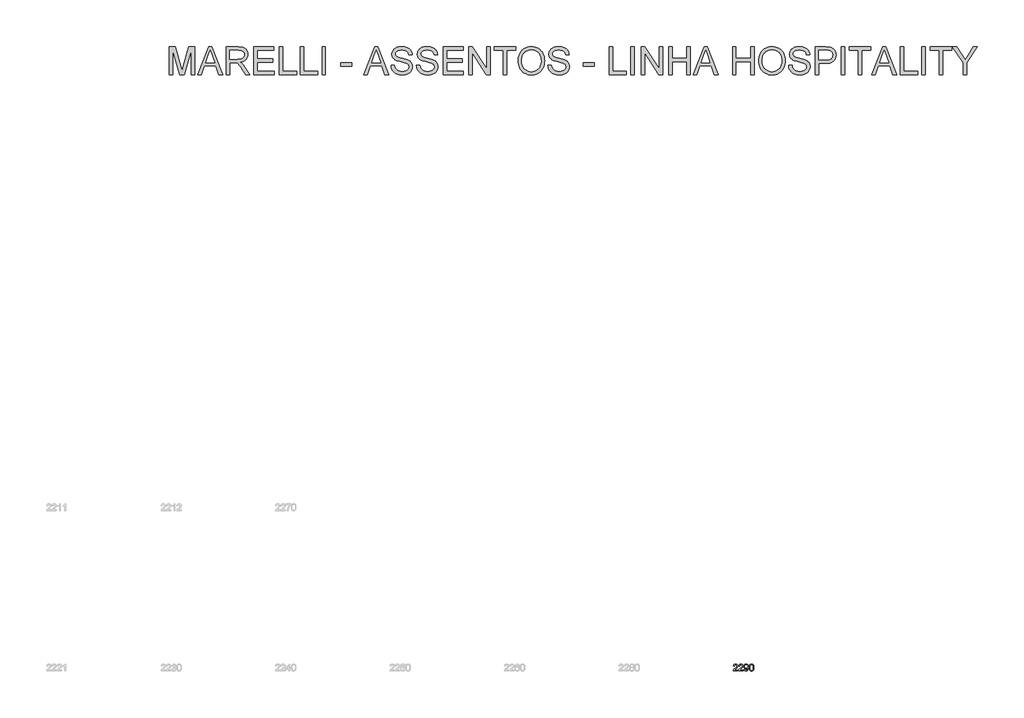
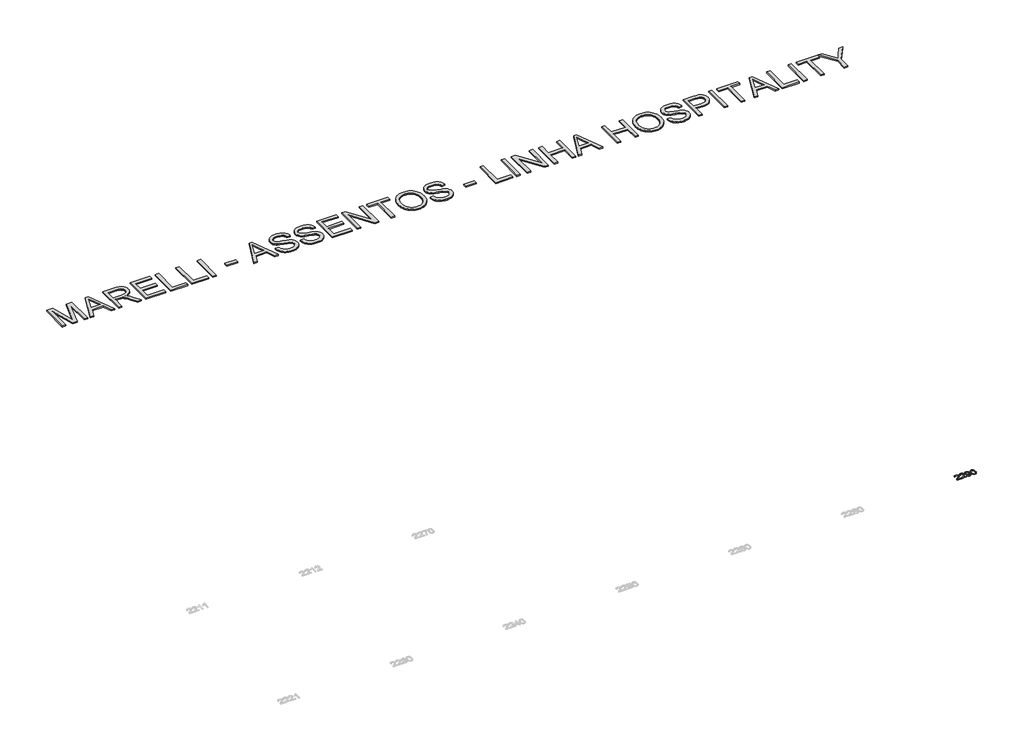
# One storey, part 6 of 6: 2 proxies.
"""IFC4 building model written with IfcOpenShell, lengths in millimetres."""

from ifc_helpers import new_model, si_unit, origin, origin_with_axes, place, context, project, spatial, polyline, outline, extrude, element, save

model = new_model("IFC4")

# Units and contexts
model_context = context("Model", 3, world=origin())
ifc_project = project(units=[si_unit("LENGTHUNIT", "METRE", prefix="MILLI")], contexts=[model_context])

# Site, building, storey
site = spatial("IfcSite", under=ifc_project)
building = spatial("IfcBuilding", under=site)
storey = spatial("IfcBuildingStorey", under=building, Name="Marelli - Linha HOSPITALITY - Planta Baixa", Elevation=0.0)

# Proxies
placement = place(None, origin())
element("IfcBuildingElementProxy", 1, Name="1200mm Arial", ObjectType="1200mm Arial", at=placement, inside=storey, context=model_context, shape_type="SweptSolid", body=[
    extrude(outline(polyline([(5818.9196787, 28269.4336799), (5818.9196787, 29474.9094017), (6078.2029089, 29474.9094017), (6324.8309985, 28625.2491457), (6374.5686442, 28447.7828712), (6428.4265683, 28639.9644255), (6670.9343796, 29474.9094017), (6930.2176098, 29474.9094017), (6930.2176098, 28269.4336799), (6779.5331445, 28269.4336799), (6779.5331445, 29324.2249365), (6476.6926861, 28269.4336799), (6272.4446024, 28269.4336799), (5969.6041439, 29324.2249365), (5969.6041439, 28269.4336799), (5818.9196787, 28269.4336799)])), origin_with_axes(), (0.0, 0.0, 1.0), 50.0),
    extrude(outline(polyline([(7053.5316545, 28269.4336799), (7534.7213042, 29474.9094017), (7663.0385441, 29474.9094017), (8144.2281938, 28269.4336799), (7985.0088663, 28269.4336799), (7846.9795417, 28646.144843), (7350.486001, 28646.144843), (7212.750982, 28269.4336799), (7053.5316545, 28269.4336799)]), holes=[polyline([(7405.8154531, 28796.8293082), (7791.9443953, 28796.8293082), (7683.3456303, 29093.1950435), (7598.8799242, 29324.2249365), (7523.8319972, 29119.093936), (7405.8154531, 28796.8293082)])]), origin_with_axes(), (0.0, 0.0, 1.0), 50.0),
    extrude(outline(polyline([(8305.2133549, 28269.4336799), (8305.2133549, 29474.9094017), (8824.6627321, 29474.9094017), (8899.2232155, 29472.8768537), (8964.2739493, 29466.7792096), (9019.8149335, 29456.6164695), (9065.8461682, 29442.3886334), (9105.0439947, 29423.0012522), (9140.0847548, 29397.3598771), (9170.9684483, 29365.4645082), (9197.6950752, 29327.3151453), (9219.2621572, 29284.9627306), (9234.6672157, 29240.4582062), (9243.9102509, 29193.8015722), (9246.9912626, 29144.9928285), (9241.8868999, 29083.0782887), (9226.5738118, 29026.2405204), (9201.0519984, 28974.4795237), (9165.3214596, 28927.7952985), (9143.5129551, 28906.7294558), (9118.922343, 28887.6777669), (9061.394796, 28855.616851), (8992.7388187, 28831.6125509), (8912.954411, 28815.6648664), (8962.6184803, 28783.2176744), (8998.5973394, 28751.2119408), (9060.3279382, 28678.0034238), (9120.7341618, 28596.1128916), (9321.744884, 28269.4336799), (9146.6330543, 28269.4336799), (8989.7681716, 28519.2991311), (8927.0075032, 28614.6541442), (8876.460517, 28684.6988761), (8834.3380286, 28732.9282057), (8796.8508533, 28762.8370119), (8761.3502407, 28780.384983), (8725.1874406, 28791.5318075), (8689.9443455, 28795.504933), (8637.7786786, 28796.8293082), (8455.8978202, 28796.8293082), (8455.8978202, 28269.4336799), (8305.2133549, 28269.4336799)]), holes=[polyline([(8455.8978202, 28947.5137734), (8793.1720333, 28947.5137734), (8890.0353627, 28952.8480624), (8930.3276382, 28959.5159235), (8965.1936543, 28968.8509292), (8995.4151602, 28981.1197937), (9021.7739051, 28996.5892316), (9044.2698891, 29015.2592429), (9062.9031122, 29037.1298275), (9077.5172245, 29061.1249306), (9087.9558761, 29086.1684974), (9094.219067, 29112.2605279), (9096.3067974, 29139.4010221), (9092.3244748, 29177.9366611), (9080.377507, 29212.9038448), (9060.465894, 29244.302573), (9032.5896358, 29272.132846), (8996.1049389, 29294.9231356), (8950.3680099, 29311.2019139), (8895.3788486, 29320.9691808), (8831.1374552, 29324.2249365), (8455.8978202, 29324.2249365), (8455.8978202, 28947.5137734)])]), origin_with_axes(), (0.0, 0.0, 1.0), 50.0),
    extrude(outline(polyline([(9510.6890767, 28269.4336799), (9510.6890767, 29474.9094017), (10377.1247518, 29474.9094017), (10377.1247518, 29324.2249365), (9661.3735419, 29324.2249365), (9661.3735419, 28966.3493316), (10339.4536355, 28966.3493316), (10339.4536355, 28815.6648664), (9661.3735419, 28815.6648664), (9661.3735419, 28420.1181452), (10395.9603099, 28420.1181452), (10395.9603099, 28269.4336799), (9510.6890767, 28269.4336799)])), origin_with_axes(), (0.0, 0.0, 1.0), 50.0),
    extrude(outline(polyline([(10621.9870078, 28269.4336799), (10621.9870078, 29474.9094017), (10772.671473, 29474.9094017), (10772.671473, 28420.1181452), (11375.4093339, 28420.1181452), (11375.4093339, 28269.4336799), (10621.9870078, 28269.4336799)])), origin_with_axes(), (0.0, 0.0, 1.0), 50.0),
    extrude(outline(polyline([(11544.9293573, 28269.4336799), (11544.9293573, 29474.9094017), (11695.6138225, 29474.9094017), (11695.6138225, 28420.1181452), (12298.3516834, 28420.1181452), (12298.3516834, 28269.4336799), (11544.9293573, 28269.4336799)])), origin_with_axes(), (0.0, 0.0, 1.0), 50.0),
    extrude(outline(polyline([(12486.7072649, 28269.4336799), (12486.7072649, 29474.9094017), (12637.3917301, 29474.9094017), (12637.3917301, 28269.4336799), (12486.7072649, 28269.4336799)])), origin_with_axes(), (0.0, 0.0, 1.0), 50.0),
    extrude(outline(polyline([(13315.4718236, 28627.3092848), (13315.4718236, 28777.9937501), (13786.3607775, 28777.9937501), (13786.3607775, 28627.3092848), (13315.4718236, 28627.3092848)])), origin_with_axes(), (0.0, 0.0, 1.0), 50.0),
    extrude(outline(polyline([(14305.2215435, 28269.4336799), (14786.4111932, 29474.9094017), (14914.7284331, 29474.9094017), (15395.9180828, 28269.4336799), (15236.6987552, 28269.4336799), (15098.6694307, 28646.144843), (14602.17589, 28646.144843), (14464.440871, 28269.4336799), (14305.2215435, 28269.4336799)]), holes=[polyline([(14657.505342, 28796.8293082), (15043.6342842, 28796.8293082), (14935.0355192, 29093.1950435), (14850.5698131, 29324.2249365), (14775.5218861, 29119.093936), (14657.505342, 28796.8293082)])]), origin_with_axes(), (0.0, 0.0, 1.0), 50.0),
    extrude(outline(polyline([(15500.3965694, 28683.8159593), (15651.0810346, 28683.8159593), (15657.978822, 28639.9552284), (15668.3714884, 28600.1963818), (15682.2590337, 28564.5394194), (15699.641458, 28532.9843413), (15721.401678, 28504.8965509), (15748.4226105, 28479.641452), (15780.7042556, 28457.2190444), (15818.2466132, 28437.6293281), (15859.6701259, 28421.7276289), (15903.5952361, 28410.3692723), (15950.0219439, 28403.5542583), (15998.9502493, 28401.282587), (16042.231566, 28403.0024353), (16082.9009206, 28408.1619803), (16120.958313, 28416.7612219), (16156.4037432, 28428.8001602), (16188.3634915, 28443.8465338), (16215.9638382, 28461.4680814), (16239.2047833, 28481.6648029), (16258.0863267, 28504.4366984), (16272.7004389, 28528.7996836), (16283.1390905, 28553.769674), (16289.4022815, 28579.3466697), (16291.4900118, 28605.5306707), (16289.9265133, 28631.6043071), (16285.2360179, 28655.9672923), (16277.4185255, 28678.6196261), (16266.4740361, 28699.5613087), (16250.6918986, 28718.9027046), (16228.3614614, 28736.7541784), (16199.4827248, 28753.1157301), (16164.0556887, 28767.9873598), (16084.4828131, 28791.6421721), (15944.6508668, 28825.5241038), (15800.6250657, 28863.5998903), (15748.0639256, 28881.9480048), (15708.4706259, 28899.8362669), (15668.2335326, 28923.8405671), (15633.459487, 28950.5304058), (15604.1484891, 28979.9057831), (15580.3005387, 29011.966699), (15561.8236655, 29046.3820596), (15548.625899, 29082.8207713), (15540.707239, 29121.2828339), (15538.0676857, 29161.7682474), (15541.3326384, 29206.6406538), (15551.1274965, 29250.0231381), (15567.4522601, 29291.9157003), (15590.306929, 29332.3183404), (15619.433986, 29369.5847865), (15654.5759136, 29402.0687667), (15695.7327118, 29429.7702809), (15742.9043806, 29452.6893292), (15794.4998304, 29470.6511676), (15848.9279716, 29483.4810522), (15906.1888042, 29491.178983), (15966.2823281, 29493.7449599), (16031.8388996, 29491.0594213), (16093.4223456, 29483.0028056), (16151.0326661, 29469.5751128), (16204.669861, 29450.7763428), (16253.3406489, 29426.7720427), (16296.0517486, 29397.7277591), (16332.8031599, 29363.6434923), (16363.5948829, 29324.5192421), (16388.1877943, 29281.4954428), (16406.3427707, 29235.7125285), (16418.0598123, 29187.1704992), (16423.3389189, 29135.869355), (16272.6544537, 29135.869355), (16262.574487, 29183.9515317), (16244.9897276, 29225.7797146), (16219.9001756, 29261.3539035), (16187.3058308, 29290.6740985), (16146.599688, 29313.5931468), (16097.174742, 29329.9638956), (16039.0309926, 29339.7863449), (15972.16844, 29343.0604947), (15903.1721718, 29339.8231331), (15844.2190821, 29330.1110484), (15795.3091708, 29313.9242406), (15756.442438, 29291.2627097), (15726.8279374, 29264.021048), (15705.6747227, 29234.0938477), (15692.9827939, 29201.4811088), (15688.7521509, 29166.1828314), (15691.7503892, 29135.8141727), (15700.745104, 29108.2782053), (15715.7362953, 29083.5749294), (15736.7239631, 29061.7043447), (15769.7597663, 29040.9925884), (15821.7782804, 29020.0601029), (15892.7795054, 28998.9068882), (15982.7634415, 28977.5329442), (16148.8989505, 28937.1395012), (16207.3553995, 28918.8741601), (16249.4043116, 28901.896406), (16295.6010931, 28876.1630605), (16335.3047574, 28847.2291416), (16368.5153046, 28815.0946493), (16395.2327345, 28779.7595836), (16415.7697468, 28741.4078856), (16430.4390414, 28700.2234963), (16439.2406181, 28656.2064156), (16442.174477, 28609.3566435), (16438.7991597, 28562.2217628), (16428.6732078, 28516.4664397), (16411.7966213, 28472.090674), (16388.1694002, 28429.0944658), (16358.2054116, 28389.1424812), (16322.318523, 28353.899386), (16280.5087343, 28323.3651804), (16232.7760454, 28297.5398644), (16180.5092109, 28277.002852), (16125.0969854, 28262.3335574), (16066.5393688, 28253.5319807), (16004.8363612, 28250.5981218), (15927.7558861, 28253.7619069), (15857.2053165, 28263.2532624), (15793.1846523, 28279.0721882), (15735.6938935, 28301.2186843), (15684.3835522, 28329.7295389), (15638.9041406, 28364.6415403), (15599.2556585, 28405.9546883), (15565.4381061, 28453.6689831), (15538.1964444, 28506.2393202), (15518.2756344, 28562.1205953), (15505.675676, 28621.3128083), (15500.3965694, 28683.8159593)])), origin_with_axes(), (0.0, 0.0, 1.0), 50.0),
    extrude(outline(polyline([(16611.6945004, 28683.8159593), (16762.3789656, 28683.8159593), (16769.2767531, 28639.9552284), (16779.6694194, 28600.1963818), (16793.5569647, 28564.5394194), (16810.939389, 28532.9843413), (16832.699609, 28504.8965509), (16859.7205416, 28479.641452), (16892.0021866, 28457.2190444), (16929.5445443, 28437.6293281), (16970.9680569, 28421.7276289), (17014.8931671, 28410.3692723), (17061.3198749, 28403.5542583), (17110.2481803, 28401.282587), (17153.529497, 28403.0024353), (17194.1988516, 28408.1619803), (17232.256244, 28416.7612219), (17267.7016742, 28428.8001602), (17299.6614226, 28443.8465338), (17327.2617692, 28461.4680814), (17350.5027143, 28481.6648029), (17369.3842577, 28504.4366984), (17383.9983699, 28528.7996836), (17394.4370216, 28553.769674), (17400.7002125, 28579.3466697), (17402.7879428, 28605.5306707), (17401.2244444, 28631.6043071), (17396.5339489, 28655.9672923), (17388.7164565, 28678.6196261), (17377.7719672, 28699.5613087), (17361.9898296, 28718.9027046), (17339.6593925, 28736.7541784), (17310.7806559, 28753.1157301), (17275.3536197, 28767.9873598), (17195.7807442, 28791.6421721), (17055.9487978, 28825.5241038), (16911.9229967, 28863.5998903), (16859.3618566, 28881.9480048), (16819.7685569, 28899.8362669), (16779.5314637, 28923.8405671), (16744.7574181, 28950.5304058), (16715.4464201, 28979.9057831), (16691.5984698, 29011.966699), (16673.1215966, 29046.3820596), (16659.92383, 29082.8207713), (16652.00517, 29121.2828339), (16649.3656167, 29161.7682474), (16652.6305694, 29206.6406538), (16662.4254276, 29250.0231381), (16678.7501911, 29291.9157003), (16701.60486, 29332.3183404), (16730.731917, 29369.5847865), (16765.8738446, 29402.0687667), (16807.0306428, 29429.7702809), (16854.2023116, 29452.6893292), (16905.7977615, 29470.6511676), (16960.2259027, 29483.4810522), (17017.4867352, 29491.178983), (17077.5802591, 29493.7449599), (17143.1368307, 29491.0594213), (17204.7202766, 29483.0028056), (17262.3305971, 29469.5751128), (17315.967792, 29450.7763428), (17364.6385799, 29426.7720427), (17407.3496796, 29397.7277591), (17444.1010909, 29363.6434923), (17474.8928139, 29324.5192421), (17499.4857253, 29281.4954428), (17517.6407017, 29235.7125285), (17529.3577433, 29187.1704992), (17534.6368499, 29135.869355), (17383.9523847, 29135.869355), (17373.872418, 29183.9515317), (17356.2876587, 29225.7797146), (17331.1981066, 29261.3539035), (17298.6037618, 29290.6740985), (17257.897619, 29313.5931468), (17208.472673, 29329.9638956), (17150.3289237, 29339.7863449), (17083.466371, 29343.0604947), (17014.4701028, 29339.8231331), (16955.5170131, 29330.1110484), (16906.6071019, 29313.9242406), (16867.7403691, 29291.2627097), (16838.1258685, 29264.021048), (16816.9726537, 29234.0938477), (16804.2807249, 29201.4811088), (16800.050082, 29166.1828314), (16803.0483202, 29135.8141727), (16812.043035, 29108.2782053), (16827.0342263, 29083.5749294), (16848.0218941, 29061.7043447), (16881.0576973, 29040.9925884), (16933.0762114, 29020.0601029), (17004.0774365, 28998.9068882), (17094.0613725, 28977.5329442), (17260.1968815, 28937.1395012), (17318.6533306, 28918.8741601), (17360.7022426, 28901.896406), (17406.8990241, 28876.1630605), (17446.6026885, 28847.2291416), (17479.8132356, 28815.0946493), (17506.5306655, 28779.7595836), (17527.0676779, 28741.4078856), (17541.7369724, 28700.2234963), (17550.5385492, 28656.2064156), (17553.4724081, 28609.3566435), (17550.0970908, 28562.2217628), (17539.9711389, 28516.4664397), (17523.0945523, 28472.090674), (17499.4673312, 28429.0944658), (17469.5033427, 28389.1424812), (17433.616454, 28353.899386), (17391.8066653, 28323.3651804), (17344.0739764, 28297.5398644), (17291.807142, 28277.002852), (17236.3949164, 28262.3335574), (17177.8372998, 28253.5319807), (17116.1342922, 28250.5981218), (17039.0538172, 28253.7619069), (16968.5032475, 28263.2532624), (16904.4825833, 28279.0721882), (16846.9918245, 28301.2186843), (16795.6814833, 28329.7295389), (16750.2020716, 28364.6415403), (16710.5535896, 28405.9546883), (16676.7360372, 28453.6689831), (16649.4943754, 28506.2393202), (16629.5735654, 28562.1205953), (16616.9736071, 28621.3128083), (16611.6945004, 28683.8159593)])), origin_with_axes(), (0.0, 0.0, 1.0), 50.0),
    extrude(outline(polyline([(17779.4991059, 28269.4336799), (17779.4991059, 29474.9094017), (18645.934781, 29474.9094017), (18645.934781, 29324.2249365), (17930.1835711, 29324.2249365), (17930.1835711, 28966.3493316), (18608.2636646, 28966.3493316), (18608.2636646, 28815.6648664), (17930.1835711, 28815.6648664), (17930.1835711, 28420.1181452), (18664.7703391, 28420.1181452), (18664.7703391, 28269.4336799), (17779.4991059, 28269.4336799)])), origin_with_axes(), (0.0, 0.0, 1.0), 50.0),
    extrude(outline(polyline([(18890.7970369, 28269.4336799), (18890.7970369, 29474.9094017), (19052.0765036, 29474.9094017), (19681.8904794, 28519.8877422), (19681.8904794, 29474.9094017), (19832.5749446, 29474.9094017), (19832.5749446, 28269.4336799), (19671.2954779, 28269.4336799), (19041.4815022, 29224.749645), (19041.4815022, 28269.4336799), (18890.7970369, 28269.4336799)])), origin_with_axes(), (0.0, 0.0, 1.0), 50.0),
    extrude(outline(polyline([(20397.6416892, 28269.4336799), (20397.6416892, 29324.2249365), (20002.094968, 29324.2249365), (20002.094968, 29474.9094017), (20943.8728756, 29474.9094017), (20943.8728756, 29324.2249365), (20548.3261544, 29324.2249365), (20548.3261544, 28269.4336799), (20397.6416892, 28269.4336799)])), origin_with_axes(), (0.0, 0.0, 1.0), 50.0),
    extrude(outline(polyline([(21056.8862245, 28856.2790386), (21059.3970192, 28929.0047106), (21066.929403, 28997.6744835), (21079.4833761, 29062.2883574), (21097.0589384, 29122.8463323), (21119.65609, 29179.3484083), (21147.2748308, 29231.7945852), (21179.9151608, 29280.1848632), (21217.57708, 29324.5192421), (21259.2075263, 29364.1815197), (21303.7534374, 29398.5554936), (21351.2148133, 29427.6411639), (21401.591654, 29451.4385304), (21454.8839595, 29469.9475933), (21511.0917299, 29483.1683525), (21570.214965, 29491.100808), (21632.253665, 29493.7449599), (21713.3532508, 29488.7785529), (21790.3693465, 29473.8793321), (21863.3019521, 29449.0472975), (21932.1510675, 29414.2824489), (21994.9853122, 29370.6332502), (22049.8733059, 29319.148165), (22096.8150485, 29259.8271932), (22135.81054, 29192.670335), (22166.4551102, 29119.2043006), (22188.3440889, 29040.9558002), (22201.4774761, 28957.9248339), (22205.8552719, 28870.1114017), (22201.2475499, 28781.1391411), (22187.4243839, 28696.9861347), (22164.385774, 28617.6523825), (22132.13172, 28543.1378843), (22091.4255773, 28475.410809), (22043.0307008, 28416.4393252), (21986.9470906, 28366.2234329), (21923.1747468, 28324.763132), (21854.2244638, 28292.31594), (21782.6070364, 28269.1393743), (21708.3224646, 28255.2334349), (21631.3707482, 28250.5981218), (21548.8548167, 28255.7208786), (21470.8270455, 28271.0891489), (21397.2874347, 28296.7029328), (21328.2359842, 28332.5622303), (21265.4753158, 28377.2782868), (21210.8080513, 28429.4623478), (21164.2341907, 28489.1144134), (21125.753734, 28556.2344834), (21095.6241986, 28628.1278223), (21074.1031019, 28702.0996945), (21061.1904439, 28778.1500999), (21056.8862245, 28856.2790386)]), holes=[polyline([(21207.5706898, 28854.8075107), (21209.4537857, 28803.4557827), (21215.1030736, 28754.9091549), (21224.5185534, 28709.1676273), (21237.7002252, 28666.2311999), (21254.6480888, 28626.0998728), (21275.3621444, 28588.7736458), (21299.8423919, 28554.2525191), (21328.0888314, 28522.5364926), (21359.1771592, 28494.1176085), (21392.183072, 28469.4879089), (21427.1065697, 28448.6473939), (21463.9476522, 28431.5960634), (21502.7063197, 28418.3339175), (21543.382572, 28408.8609561), (21585.9764093, 28403.1771793), (21630.4878314, 28401.282587), (21675.8131925, 28403.1955734), (21719.0830129, 28408.9345325), (21760.2972927, 28418.4994644), (21799.4560318, 28431.890369), (21836.5592303, 28449.1072464), (21871.6068881, 28470.1500965), (21904.5990053, 28495.0189194), (21935.5355818, 28523.713715), (21963.5750876, 28555.9263822), (21987.8759927, 28591.3488198), (22008.438297, 28629.9810278), (22025.2620004, 28671.8230063), (22038.3471032, 28716.8747551), (22047.6936051, 28765.1362743), (22053.3015063, 28816.607564), (22055.1708067, 28871.288624), (22051.9702333, 28940.248104), (22042.3685132, 29004.6826355), (22026.3656464, 29064.5922184), (22003.9616329, 29119.9768528), (21975.404793, 29170.1099717), (21940.9434472, 29214.2650081), (21900.5775952, 29252.4419622), (21854.3072373, 29284.6408338), (21803.5671131, 29310.1994354), (21749.7919625, 29328.4555794), (21692.9817854, 29339.4092659), (21633.1365818, 29343.0604947), (21590.3381102, 29341.3015589), (21549.0571518, 29336.0247515), (21509.2937066, 29327.2300725), (21471.0477747, 29314.917522), (21434.319356, 29299.0870999), (21399.1084506, 29279.7388062), (21365.4150583, 29256.872641), (21333.2391793, 29230.4886041), (21303.7856271, 29199.993486), (21278.2592151, 29164.7940768), (21256.6599435, 29124.8903767), (21238.9878122, 29080.2823855), (21225.2428211, 29030.9701033), (21215.4249704, 28976.9535301), (21209.5342599, 28918.2326659), (21207.5706898, 28854.8075107)])]), origin_with_axes(), (0.0, 0.0, 1.0), 50.0),
    extrude(outline(polyline([(22356.5397371, 28683.8159593), (22507.2242023, 28683.8159593), (22514.1219897, 28639.9552284), (22524.5146561, 28600.1963818), (22538.4022014, 28564.5394194), (22555.7846257, 28532.9843413), (22577.5448457, 28504.8965509), (22604.5657783, 28479.641452), (22636.8474233, 28457.2190444), (22674.3897809, 28437.6293281), (22715.8132936, 28421.7276289), (22759.7384038, 28410.3692723), (22806.1651116, 28403.5542583), (22855.093417, 28401.282587), (22898.3747337, 28403.0024353), (22939.0440883, 28408.1619803), (22977.1014807, 28416.7612219), (23012.5469109, 28428.8001602), (23044.5066592, 28443.8465338), (23072.1070059, 28461.4680814), (23095.347951, 28481.6648029), (23114.2294944, 28504.4366984), (23128.8436066, 28528.7996836), (23139.2822582, 28553.769674), (23145.5454492, 28579.3466697), (23147.6331795, 28605.5306707), (23146.0696811, 28631.6043071), (23141.3791856, 28655.9672923), (23133.5616932, 28678.6196261), (23122.6172039, 28699.5613087), (23106.8350663, 28718.9027046), (23084.5046292, 28736.7541784), (23055.6258925, 28753.1157301), (23020.1988564, 28767.9873598), (22940.6259808, 28791.6421721), (22800.7940345, 28825.5241038), (22656.7682334, 28863.5998903), (22604.2070933, 28881.9480048), (22564.6137936, 28899.8362669), (22524.3767004, 28923.8405671), (22489.6026548, 28950.5304058), (22460.2916568, 28979.9057831), (22436.4437065, 29011.966699), (22417.9668332, 29046.3820596), (22404.7690667, 29082.8207713), (22396.8504067, 29121.2828339), (22394.2108534, 29161.7682474), (22397.4758061, 29206.6406538), (22407.2706642, 29250.0231381), (22423.5954278, 29291.9157003), (22446.4500967, 29332.3183404), (22475.5771537, 29369.5847865), (22510.7190813, 29402.0687667), (22551.8758795, 29429.7702809), (22599.0475483, 29452.6893292), (22650.6429981, 29470.6511676), (22705.0711393, 29483.4810522), (22762.3319719, 29491.178983), (22822.4254958, 29493.7449599), (22887.9820673, 29491.0594213), (22949.5655133, 29483.0028056), (23007.1758338, 29469.5751128), (23060.8130287, 29450.7763428), (23109.4838166, 29426.7720427), (23152.1949163, 29397.7277591), (23188.9463276, 29363.6434923), (23219.7380506, 29324.5192421), (23244.330962, 29281.4954428), (23262.4859384, 29235.7125285), (23274.20298, 29187.1704992), (23279.4820866, 29135.869355), (23128.7976214, 29135.869355), (23118.7176547, 29183.9515317), (23101.1328953, 29225.7797146), (23076.0433433, 29261.3539035), (23043.4489985, 29290.6740985), (23002.7428557, 29313.5931468), (22953.3179097, 29329.9638956), (22895.1741603, 29339.7863449), (22828.3116077, 29343.0604947), (22759.3153395, 29339.8231331), (22700.3622498, 29330.1110484), (22651.4523385, 29313.9242406), (22612.5856057, 29291.2627097), (22582.9711051, 29264.021048), (22561.8178904, 29234.0938477), (22549.1259616, 29201.4811088), (22544.8953186, 29166.1828314), (22547.8935569, 29135.8141727), (22556.8882717, 29108.2782053), (22571.879463, 29083.5749294), (22592.8671308, 29061.7043447), (22625.902934, 29040.9925884), (22677.9214481, 29020.0601029), (22748.9226732, 28998.9068882), (22838.9066092, 28977.5329442), (23005.0421182, 28937.1395012), (23063.4985672, 28918.8741601), (23105.5474793, 28901.896406), (23151.7442608, 28876.1630605), (23191.4479252, 28847.2291416), (23224.6584723, 28815.0946493), (23251.3759022, 28779.7595836), (23271.9129146, 28741.4078856), (23286.5822091, 28700.2234963), (23295.3837858, 28656.2064156), (23298.3176448, 28609.3566435), (23294.9423274, 28562.2217628), (23284.8163755, 28516.4664397), (23267.939789, 28472.090674), (23244.3125679, 28429.0944658), (23214.3485794, 28389.1424812), (23178.4616907, 28353.899386), (23136.651902, 28323.3651804), (23088.9192131, 28297.5398644), (23036.6523786, 28277.002852), (22981.2401531, 28262.3335574), (22922.6825365, 28253.5319807), (22860.9795289, 28250.5981218), (22783.8990538, 28253.7619069), (22713.3484842, 28263.2532624), (22649.32782, 28279.0721882), (22591.8370612, 28301.2186843), (22540.5267199, 28329.7295389), (22495.0473083, 28364.6415403), (22455.3988263, 28405.9546883), (22421.5812738, 28453.6689831), (22394.3396121, 28506.2393202), (22374.4188021, 28562.1205953), (22361.8188437, 28621.3128083), (22356.5397371, 28683.8159593)])), origin_with_axes(), (0.0, 0.0, 1.0), 50.0),
    extrude(outline(polyline([(23901.0555057, 28627.3092848), (23901.0555057, 28777.9937501), (24371.9444595, 28777.9937501), (24371.9444595, 28627.3092848), (23901.0555057, 28627.3092848)])), origin_with_axes(), (0.0, 0.0, 1.0), 50.0),
    extrude(outline(polyline([(25031.1889948, 28269.4336799), (25031.1889948, 29474.9094017), (25181.8734601, 29474.9094017), (25181.8734601, 28420.1181452), (25784.611321, 28420.1181452), (25784.611321, 28269.4336799), (25031.1889948, 28269.4336799)])), origin_with_axes(), (0.0, 0.0, 1.0), 50.0),
    extrude(outline(polyline([(25972.9669025, 28269.4336799), (25972.9669025, 29474.9094017), (26123.6513677, 29474.9094017), (26123.6513677, 28269.4336799), (25972.9669025, 28269.4336799)])), origin_with_axes(), (0.0, 0.0, 1.0), 50.0),
    extrude(outline(polyline([(26425.0202982, 28269.4336799), (26425.0202982, 29474.9094017), (26586.2997648, 29474.9094017), (27216.1137406, 28519.8877422), (27216.1137406, 29474.9094017), (27366.7982058, 29474.9094017), (27366.7982058, 28269.4336799), (27205.5187391, 28269.4336799), (26575.7047634, 29224.749645), (26575.7047634, 28269.4336799), (26425.0202982, 28269.4336799)])), origin_with_axes(), (0.0, 0.0, 1.0), 50.0),
    extrude(outline(polyline([(27630.49602, 28269.4336799), (27630.49602, 29474.9094017), (27781.1804852, 29474.9094017), (27781.1804852, 28985.1848897), (28421.5894624, 28985.1848897), (28421.5894624, 29474.9094017), (28572.2739276, 29474.9094017), (28572.2739276, 28269.4336799), (28421.5894624, 28269.4336799), (28421.5894624, 28834.5004245), (27781.1804852, 28834.5004245), (27781.1804852, 28269.4336799), (27630.49602, 28269.4336799)])), origin_with_axes(), (0.0, 0.0, 1.0), 50.0),
    extrude(outline(polyline([(28695.5879724, 28269.4336799), (29176.7776221, 29474.9094017), (29305.094862, 29474.9094017), (29786.2845117, 28269.4336799), (29627.0651842, 28269.4336799), (29489.0358596, 28646.144843), (28992.5423189, 28646.144843), (28854.8072999, 28269.4336799), (28695.5879724, 28269.4336799)]), holes=[polyline([(29047.871771, 28796.8293082), (29434.0007131, 28796.8293082), (29325.4019481, 29093.1950435), (29240.936242, 29324.2249365), (29165.888315, 29119.093936), (29047.871771, 28796.8293082)])]), origin_with_axes(), (0.0, 0.0, 1.0), 50.0),
    extrude(outline(polyline([(30418.1586266, 28269.4336799), (30418.1586266, 29474.9094017), (30568.8430918, 29474.9094017), (30568.8430918, 28985.1848897), (31209.252069, 28985.1848897), (31209.252069, 29474.9094017), (31359.9365343, 29474.9094017), (31359.9365343, 28269.4336799), (31209.252069, 28269.4336799), (31209.252069, 28834.5004245), (30568.8430918, 28834.5004245), (30568.8430918, 28269.4336799), (30418.1586266, 28269.4336799)])), origin_with_axes(), (0.0, 0.0, 1.0), 50.0),
    extrude(outline(polyline([(31567.1276739, 28856.2790386), (31569.6384686, 28929.0047106), (31577.1708524, 28997.6744835), (31589.7248255, 29062.2883574), (31607.3003878, 29122.8463323), (31629.8975394, 29179.3484083), (31657.5162802, 29231.7945852), (31690.1566102, 29280.1848632), (31727.8185294, 29324.5192421), (31769.4489757, 29364.1815197), (31813.9948868, 29398.5554936), (31861.4562627, 29427.6411639), (31911.8331034, 29451.4385304), (31965.125409, 29469.9475933), (32021.3331793, 29483.1683525), (32080.4564144, 29491.100808), (32142.4951144, 29493.7449599), (32223.5947002, 29488.7785529), (32300.6107959, 29473.8793321), (32373.5434015, 29449.0472975), (32442.3925169, 29414.2824489), (32505.2267616, 29370.6332502), (32560.1147553, 29319.148165), (32607.0564979, 29259.8271932), (32646.0519894, 29192.670335), (32676.6965596, 29119.2043006), (32698.5855383, 29040.9558002), (32711.7189255, 28957.9248339), (32716.0967213, 28870.1114017), (32711.4889993, 28781.1391411), (32697.6658333, 28696.9861347), (32674.6272234, 28617.6523825), (32642.3731694, 28543.1378843), (32601.6670267, 28475.410809), (32553.2721502, 28416.4393252), (32497.1885401, 28366.2234329), (32433.4161962, 28324.763132), (32364.4659132, 28292.31594), (32292.8484858, 28269.1393743), (32218.563914, 28255.2334349), (32141.6121976, 28250.5981218), (32059.0962661, 28255.7208786), (31981.0684949, 28271.0891489), (31907.5288841, 28296.7029328), (31838.4774336, 28332.5622303), (31775.7167652, 28377.2782868), (31721.0495007, 28429.4623478), (31674.4756401, 28489.1144134), (31635.9951834, 28556.2344834), (31605.865648, 28628.1278223), (31584.3445513, 28702.0996945), (31571.4318933, 28778.1500999), (31567.1276739, 28856.2790386)]), holes=[polyline([(31717.8121392, 28854.8075107), (31719.6952351, 28803.4557827), (31725.344523, 28754.9091549), (31734.7600028, 28709.1676273), (31747.9416746, 28666.2311999), (31764.8895382, 28626.0998728), (31785.6035938, 28588.7736458), (31810.0838413, 28554.2525191), (31838.3302808, 28522.5364926), (31869.4186086, 28494.1176085), (31902.4245214, 28469.4879089), (31937.3480191, 28448.6473939), (31974.1891016, 28431.5960634), (32012.9477691, 28418.3339175), (32053.6240214, 28408.8609561), (32096.2178587, 28403.1771793), (32140.7292808, 28401.282587), (32186.0546419, 28403.1955734), (32229.3244623, 28408.9345325), (32270.5387421, 28418.4994644), (32309.6974812, 28431.890369), (32346.8006797, 28449.1072464), (32381.8483375, 28470.1500965), (32414.8404547, 28495.0189194), (32445.7770312, 28523.713715), (32473.816537, 28555.9263822), (32498.1174421, 28591.3488198), (32518.6797464, 28629.9810278), (32535.5034498, 28671.8230063), (32548.5885526, 28716.8747551), (32557.9350545, 28765.1362743), (32563.5429557, 28816.607564), (32565.4122561, 28871.288624), (32562.2116827, 28940.248104), (32552.6099626, 29004.6826355), (32536.6070958, 29064.5922184), (32514.2030823, 29119.9768528), (32485.6462425, 29170.1099717), (32451.1848966, 29214.2650081), (32410.8190446, 29252.4419622), (32364.5486867, 29284.6408338), (32313.8085625, 29310.1994354), (32260.0334119, 29328.4555794), (32203.2232348, 29339.4092659), (32143.3780312, 29343.0604947), (32100.5795596, 29341.3015589), (32059.2986012, 29336.0247515), (32019.535156, 29327.2300725), (31981.2892241, 29314.917522), (31944.5608054, 29299.0870999), (31909.3499, 29279.7388062), (31875.6565077, 29256.872641), (31843.4806287, 29230.4886041), (31814.0270765, 29199.993486), (31788.5006645, 29164.7940768), (31766.9013929, 29124.8903767), (31749.2292616, 29080.2823855), (31735.4842705, 29030.9701033), (31725.6664198, 28976.9535301), (31719.7757093, 28918.2326659), (31717.8121392, 28854.8075107)])]), origin_with_axes(), (0.0, 0.0, 1.0), 50.0),
    extrude(outline(polyline([(32866.7811865, 28683.8159593), (33017.4656517, 28683.8159593), (33024.3634391, 28639.9552284), (33034.7561055, 28600.1963818), (33048.6436508, 28564.5394194), (33066.0260751, 28532.9843413), (33087.7862951, 28504.8965509), (33114.8072277, 28479.641452), (33147.0888727, 28457.2190444), (33184.6312303, 28437.6293281), (33226.054743, 28421.7276289), (33269.9798532, 28410.3692723), (33316.406561, 28403.5542583), (33365.3348664, 28401.282587), (33408.6161831, 28403.0024353), (33449.2855377, 28408.1619803), (33487.3429301, 28416.7612219), (33522.7883603, 28428.8001602), (33554.7481086, 28443.8465338), (33582.3484553, 28461.4680814), (33605.5894004, 28481.6648029), (33624.4709438, 28504.4366984), (33639.085056, 28528.7996836), (33649.5237076, 28553.769674), (33655.7868986, 28579.3466697), (33657.8746289, 28605.5306707), (33656.3111305, 28631.6043071), (33651.620635, 28655.9672923), (33643.8031426, 28678.6196261), (33632.8586533, 28699.5613087), (33617.0765157, 28718.9027046), (33594.7460786, 28736.7541784), (33565.8673419, 28753.1157301), (33530.4403058, 28767.9873598), (33450.8674302, 28791.6421721), (33311.0354839, 28825.5241038), (33167.0096828, 28863.5998903), (33114.4485427, 28881.9480048), (33074.855243, 28899.8362669), (33034.6181498, 28923.8405671), (32999.8441042, 28950.5304058), (32970.5331062, 28979.9057831), (32946.6851559, 29011.966699), (32928.2082826, 29046.3820596), (32915.0105161, 29082.8207713), (32907.0918561, 29121.2828339), (32904.4523028, 29161.7682474), (32907.7172555, 29206.6406538), (32917.5121136, 29250.0231381), (32933.8368772, 29291.9157003), (32956.6915461, 29332.3183404), (32985.8186031, 29369.5847865), (33020.9605307, 29402.0687667), (33062.1173289, 29429.7702809), (33109.2889977, 29452.6893292), (33160.8844475, 29470.6511676), (33215.3125887, 29483.4810522), (33272.5734213, 29491.178983), (33332.6669452, 29493.7449599), (33398.2235167, 29491.0594213), (33459.8069627, 29483.0028056), (33517.4172832, 29469.5751128), (33571.0544781, 29450.7763428), (33619.725266, 29426.7720427), (33662.4363657, 29397.7277591), (33699.187777, 29363.6434923), (33729.9795, 29324.5192421), (33754.5724114, 29281.4954428), (33772.7273878, 29235.7125285), (33784.4444294, 29187.1704992), (33789.723536, 29135.869355), (33639.0390708, 29135.869355), (33628.9591041, 29183.9515317), (33611.3743447, 29225.7797146), (33586.2847927, 29261.3539035), (33553.6904479, 29290.6740985), (33512.9843051, 29313.5931468), (33463.5593591, 29329.9638956), (33405.4156097, 29339.7863449), (33338.5530571, 29343.0604947), (33269.5567889, 29339.8231331), (33210.6036992, 29330.1110484), (33161.6937879, 29313.9242406), (33122.8270551, 29291.2627097), (33093.2125545, 29264.021048), (33072.0593398, 29234.0938477), (33059.367411, 29201.4811088), (33055.136768, 29166.1828314), (33058.1350063, 29135.8141727), (33067.1297211, 29108.2782053), (33082.1209124, 29083.5749294), (33103.1085802, 29061.7043447), (33136.1443834, 29040.9925884), (33188.1628975, 29020.0601029), (33259.1641226, 28998.9068882), (33349.1480586, 28977.5329442), (33515.2835676, 28937.1395012), (33573.7400166, 28918.8741601), (33615.7889287, 28901.896406), (33661.9857102, 28876.1630605), (33701.6893746, 28847.2291416), (33734.8999217, 28815.0946493), (33761.6173516, 28779.7595836), (33782.154364, 28741.4078856), (33796.8236585, 28700.2234963), (33805.6252352, 28656.2064156), (33808.5590942, 28609.3566435), (33805.1837769, 28562.2217628), (33795.0578249, 28516.4664397), (33778.1812384, 28472.090674), (33754.5540173, 28429.0944658), (33724.5900288, 28389.1424812), (33688.7031401, 28353.899386), (33646.8933514, 28323.3651804), (33599.1606625, 28297.5398644), (33546.893828, 28277.002852), (33491.4816025, 28262.3335574), (33432.9239859, 28253.5319807), (33371.2209783, 28250.5981218), (33294.1405033, 28253.7619069), (33223.5899336, 28263.2532624), (33159.5692694, 28279.0721882), (33102.0785106, 28301.2186843), (33050.7681693, 28329.7295389), (33005.2887577, 28364.6415403), (32965.6402757, 28405.9546883), (32931.8227233, 28453.6689831), (32904.5810615, 28506.2393202), (32884.6602515, 28562.1205953), (32872.0602931, 28621.3128083), (32866.7811865, 28683.8159593)])), origin_with_axes(), (0.0, 0.0, 1.0), 50.0),
    extrude(outline(polyline([(34034.585792, 28269.4336799), (34034.585792, 29474.9094017), (34481.3416869, 29474.9094017), (34585.3787152, 29472.0399222), (34661.4567118, 29463.4314835), (34703.3860622, 29454.3907834), (34741.7653513, 29441.9839632), (34776.5945792, 29426.2110226), (34807.8737459, 29407.0719618), (34835.933945, 29384.1713076), (34861.1062706, 29357.1135869), (34883.3907224, 29325.8987996), (34902.7873006, 29290.5269457), (34918.4958618, 29252.1660507), (34929.7162627, 29211.9841398), (34936.4485032, 29169.981213), (34938.6925833, 29126.1572703), (34932.6317275, 29052.157807), (34925.0556576, 29017.3791628), (34914.4491599, 28984.0812438), (34900.8122341, 28952.2640497), (34884.1448805, 28921.9275807), (34864.4470989, 28893.0718367), (34841.7188894, 28865.6968177), (34815.0359484, 28840.7268273), (34783.4739725, 28819.0861689), (34747.0329616, 28800.7748426), (34705.7129158, 28785.7928484), (34659.513835, 28774.1401862), (34608.4357192, 28765.816856), (34552.4785685, 28760.8228579), (34491.6423828, 28759.1581919), (34185.2702572, 28759.1581919), (34185.2702572, 28269.4336799), (34034.585792, 28269.4336799)]), holes=[polyline([(34185.2702572, 28909.8426571), (34500.4715507, 28909.8426571), (34572.9443037, 28913.3007479), (34634.0862913, 28923.6750202), (34683.8975135, 28940.9654739), (34722.3779702, 28965.1721092), (34751.0911599, 28995.6511325), (34771.6005811, 29031.7587503), (34783.9062339, 29073.4949627), (34788.0081181, 29120.8597696), (34785.589294, 29156.0292883), (34778.3328216, 29188.5500567), (34766.2387011, 29218.4220747), (34749.3069322, 29245.6453423), (34728.438826, 29269.3369428), (34704.5356934, 29288.6139594), (34677.5975343, 29303.476392), (34647.6243488, 29313.9242406), (34589.4989935, 29321.6497625), (34496.9398835, 29324.2249365), (34185.2702572, 29324.2249365), (34185.2702572, 28909.8426571)])]), origin_with_axes(), (0.0, 0.0, 1.0), 50.0),
    extrude(outline(polyline([(35164.7192812, 28269.4336799), (35164.7192812, 29474.9094017), (35315.4037464, 29474.9094017), (35315.4037464, 28269.4336799), (35164.7192812, 28269.4336799)])), origin_with_axes(), (0.0, 0.0, 1.0), 50.0),
    extrude(outline(polyline([(35918.1416073, 28269.4336799), (35918.1416073, 29324.2249365), (35522.5948861, 29324.2249365), (35522.5948861, 29474.9094017), (36464.3727937, 29474.9094017), (36464.3727937, 29324.2249365), (36068.8260725, 29324.2249365), (36068.8260725, 28269.4336799), (35918.1416073, 28269.4336799)])), origin_with_axes(), (0.0, 0.0, 1.0), 50.0),
    extrude(outline(polyline([(36493.5090478, 28269.4336799), (36974.6986974, 29474.9094017), (37103.0159374, 29474.9094017), (37584.2055871, 28269.4336799), (37424.9862595, 28269.4336799), (37286.956935, 28646.144843), (36790.4633943, 28646.144843), (36652.7283753, 28269.4336799), (36493.5090478, 28269.4336799)]), holes=[polyline([(36845.7928463, 28796.8293082), (37231.9217885, 28796.8293082), (37123.3230235, 29093.1950435), (37038.8573174, 29324.2249365), (36963.8093904, 29119.093936), (36845.7928463, 28796.8293082)])]), origin_with_axes(), (0.0, 0.0, 1.0), 50.0),
    extrude(outline(polyline([(37745.1907481, 28269.4336799), (37745.1907481, 29474.9094017), (37895.8752134, 29474.9094017), (37895.8752134, 28420.1181452), (38498.6130743, 28420.1181452), (38498.6130743, 28269.4336799), (37745.1907481, 28269.4336799)])), origin_with_axes(), (0.0, 0.0, 1.0), 50.0),
    extrude(outline(polyline([(38686.9686558, 28269.4336799), (38686.9686558, 29474.9094017), (38837.653121, 29474.9094017), (38837.653121, 28269.4336799), (38686.9686558, 28269.4336799)])), origin_with_axes(), (0.0, 0.0, 1.0), 50.0),
    extrude(outline(polyline([(39440.3909819, 28269.4336799), (39440.3909819, 29324.2249365), (39044.8442607, 29324.2249365), (39044.8442607, 29474.9094017), (39986.6221684, 29474.9094017), (39986.6221684, 29324.2249365), (39591.0754471, 29324.2249365), (39591.0754471, 28269.4336799), (39440.3909819, 28269.4336799)])), origin_with_axes(), (0.0, 0.0, 1.0), 50.0),
    extrude(outline(polyline([(40495.1822385, 28269.4336799), (40495.1822385, 28780.0538892), (40024.2932847, 29474.9094017), (40202.0538647, 29474.9094017), (40453.3908438, 29103.790045), (40582.0023894, 28914.5515467), (40710.9082405, 29117.3281024), (40938.9950775, 29474.9094017), (41116.7556575, 29474.9094017), (40645.8667037, 28780.0538892), (40645.8667037, 28269.4336799), (40495.1822385, 28269.4336799)])), origin_with_axes(), (0.0, 0.0, 1.0), 50.0),
])
element("IfcBuildingElementProxy", 2, Name="300mm Arial", ObjectType="300mm Arial", at=placement, inside=storey, context=model_context, shape_type="SweptSolid", body=[
    extrude(outline(polyline([(30652.3420691, 2257.1047962), (30652.3420691, 2219.4336799), (30454.5687085, 2219.4336799), (30458.6154104, 2245.4061488), (30467.9044308, 2265.7040379), (30481.4976705, 2285.3949217), (30501.1609632, 2306.0055104), (30528.6601423, 2329.0625145), (30569.3111028, 2365.1701323), (30593.701679, 2391.8231829), (30605.8969672, 2413.4546442), (30609.9620632, 2434.4974943), (30606.1268934, 2453.3606436), (30594.621384, 2469.0416137), (30576.9354571, 2479.609024), (30554.5590348, 2483.1314941), (30531.0605723, 2479.6917974), (30512.8044283, 2469.3727075), (30501.0230074, 2452.9835646), (30496.9487143, 2431.3337092), (30459.277598, 2436.0425987), (30468.4102685, 2472.4813103), (30476.9566271, 2487.0172476), (30488.1563346, 2499.0975727), (30501.7518736, 2508.5935267), (30517.4857267, 2515.376351), (30555.3683751, 2520.8026104), (30575.5581989, 2519.2942942), (30593.5269351, 2514.7693457), (30609.2745837, 2507.2277648), (30622.8011449, 2496.6695515), (30633.66516, 2483.8764551), (30641.4251709, 2469.6302249), (30646.0811774, 2453.9308607), (30647.6331795, 2436.7783627), (30645.9593165, 2418.761342), (30640.9377272, 2401.057021), (30632.0257859, 2383.0491973), (30618.6808665, 2364.1216686), (30597.4080901, 2341.5245171), (30564.7125778, 2312.5078247), (30521.3760788, 2276.2714482), (30504.3799306, 2257.1047962), (30652.3420691, 2257.1047962)])), origin_with_axes(), (0.0, 0.0, 1.0), 10.0),
    extrude(outline(polyline([(30883.0776564, 2257.1047962), (30883.0776564, 2219.4336799), (30685.3042958, 2219.4336799), (30689.3509978, 2245.4061488), (30698.6400182, 2265.7040379), (30712.2332579, 2285.3949217), (30731.8965505, 2306.0055104), (30759.3957297, 2329.0625145), (30800.0466901, 2365.1701323), (30824.4372664, 2391.8231829), (30836.6325546, 2413.4546442), (30840.6976506, 2434.4974943), (30836.8624808, 2453.3606436), (30825.3569714, 2469.0416137), (30807.6710445, 2479.609024), (30785.2946221, 2483.1314941), (30761.7961597, 2479.6917974), (30743.5400157, 2469.3727075), (30731.7585948, 2452.9835646), (30727.6843017, 2431.3337092), (30690.0131854, 2436.0425987), (30699.1458559, 2472.4813103), (30707.6922145, 2487.0172476), (30718.891922, 2499.0975727), (30732.487461, 2508.5935267), (30748.2213141, 2515.376351), (30786.1039625, 2520.8026104), (30806.2937863, 2519.2942942), (30824.2625225, 2514.7693457), (30840.0101711, 2507.2277648), (30853.5367322, 2496.6695515), (30864.4007474, 2483.8764551), (30872.1607582, 2469.6302249), (30876.8167647, 2453.9308607), (30878.3687669, 2436.7783627), (30876.6949038, 2418.761342), (30871.6733146, 2401.057021), (30862.7613733, 2383.0491973), (30849.4164539, 2364.1216686), (30828.1436775, 2341.5245171), (30795.4481652, 2312.5078247), (30752.1116662, 2276.2714482), (30735.115518, 2257.1047962), (30883.0776564, 2257.1047962)])), origin_with_axes(), (0.0, 0.0, 1.0), 10.0),
    extrude(outline(polyline([(30925.4576623, 2294.7759125), (30963.1287786, 2299.4848021), (30969.5667135, 2278.1016611), (30980.0513504, 2263.5427312), (30994.3251718, 2255.1826128), (31012.1306604, 2252.3959067), (31028.105936, 2254.1893314), (31042.6280778, 2259.5696056), (31054.6946072, 2267.948118), (31063.3030459, 2278.7362576), (31075.6270927, 2311.4777551), (31081.0717462, 2355.1821362), (31080.8510171, 2362.5397761), (31067.8004033, 2346.6104857), (31050.7214816, 2333.9921332), (31030.8466569, 2325.7699706), (31009.4083336, 2323.0292498), (30991.5131738, 2324.7031129), (30975.0573523, 2329.7247021), (30960.0408691, 2338.0940175), (30946.4637242, 2349.811059), (30935.2134329, 2364.2642229), (30927.1775106, 2380.8419053), (30922.3559572, 2399.5441062), (30920.7487728, 2420.3708257), (30922.4341321, 2441.8919224), (30927.4902103, 2461.2057272), (30935.9170073, 2478.3122399), (30947.714523, 2493.2114607), (30962.0504245, 2505.2825887), (30978.0923787, 2513.904823), (30995.8403858, 2519.0781635), (31015.2944455, 2520.8026104), (31043.3914329, 2516.866273), (31068.9684286, 2505.057261), (31090.3607666, 2485.9641854), (31105.9037809, 2460.1756576), (31115.3675452, 2424.5278922), (31118.5221334, 2375.8571043), (31115.3767423, 2324.2524574), (31105.9405691, 2284.3648521), (31090.2963873, 2254.3916665), (31068.5269702, 2232.530279), (31041.570417, 2219.1761625), (31010.3648268, 2214.7247904), (30978.1567581, 2219.9763059), (30952.4602007, 2235.7308523), (30934.4891653, 2260.9951483), (30925.4576623, 2294.7759125)]), holes=[polyline([(31080.8510171, 2421.2537425), (31076.785921, 2446.784753), (31064.5906329, 2466.4296515), (31045.6631042, 2478.9560334), (31021.4012866, 2483.1314941), (30996.2381582, 2478.6341367), (30976.0782248, 2465.1420645), (30962.834473, 2444.4946875), (30958.4198891, 2418.5314157), (30962.5953497, 2395.2536825), (30975.1217316, 2376.7768093), (30994.7850243, 2364.7194769), (31020.371217, 2360.7003661), (31044.4398966, 2364.7194769), (31063.8180807, 2376.7768093), (31076.592783, 2395.9342642), (31080.8510171, 2421.2537425)])]), origin_with_axes(), (0.0, 0.0, 1.0), 10.0),
    extrude(outline(polyline([(31151.4843601, 2367.690124), (31154.2526721, 2415.9286506), (31162.5576082, 2454.3999103), (31176.3163948, 2483.6925141), (31195.4462585, 2504.3950734), (31220.0851552, 2516.7007261), (31250.3710404, 2520.8026104), (31273.5843943, 2518.3745892), (31294.3697271, 2511.0905257), (31311.7521513, 2499.2355284), (31324.7567799, 2483.0947059), (31334.5792291, 2462.8060138), (31342.4151156, 2438.5074081), (31347.5470695, 2407.6513057), (31349.2577207, 2367.690124), (31346.5169999, 2319.7275089), (31338.2948373, 2281.3482197), (31324.6188241, 2252.0280247), (31305.5165515, 2231.242692), (31280.8224726, 2218.8542658), (31250.3710404, 2214.7247904), (31229.6224959, 2216.5182151), (31211.2283961, 2221.8984893), (31195.1887412, 2230.8656129), (31181.5035309, 2243.419586), (31168.3701437, 2266.1133066), (31158.9891528, 2294.3896364), (31153.3605583, 2328.2485756), (31151.4843601, 2367.690124)]), holes=[polyline([(31189.1554764, 2367.7637004), (31193.5700604, 2308.507108), (31199.0882903, 2288.2391093), (31206.8138122, 2274.211309), (31226.5322871, 2257.8497573), (31250.3710404, 2252.3959067), (31274.2097937, 2257.8681514), (31293.9282687, 2274.2848854), (31301.6537906, 2288.3356784), (31307.1720205, 2308.5990785), (31311.5866044, 2367.7637004), (31307.3191733, 2425.6867205), (31301.9848844, 2445.8880406), (31294.5168798, 2460.249234), (31274.8351931, 2477.410929), (31249.929582, 2483.1314941), (31226.3483461, 2478.0915107), (31207.4024234, 2462.9715607), (31199.4193841, 2447.3365759), (31193.7172132, 2426.2569376), (31189.1554764, 2367.7637004)])]), origin_with_axes(), (0.0, 0.0, 1.0), 10.0),
])

save(model, "model.ifc")
